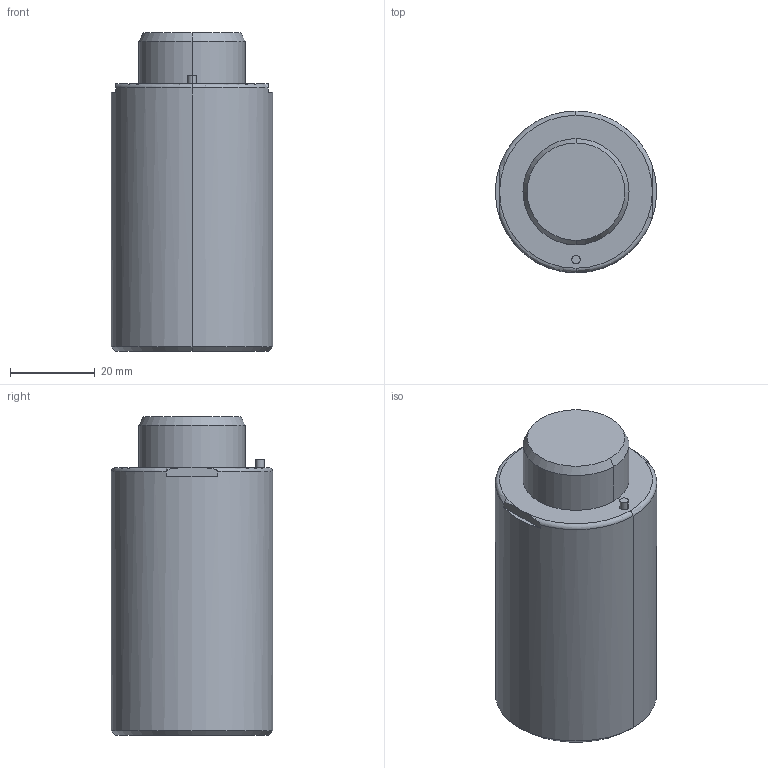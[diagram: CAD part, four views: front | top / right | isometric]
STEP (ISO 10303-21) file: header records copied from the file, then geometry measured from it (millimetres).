
FILE_DESCRIPTION(/* description */ (''),/* implementation_level */ '2;1');
FILE_NAME(/* name */ '3d_gsx38-10_03991_r00.stp',/* time_stamp */ '2011-01-10T14:15:13+09:00',/* author */ ('MISUMI'),/* organization */ (''),/* preprocessor_version */ 'ST-DEVELOPER v11',/* originating_system */ 'UGS - NX 5.0',/* authorisation */ '');
FILE_SCHEMA (('CONFIG_CONTROL_DESIGN'));
Length unit declared in the file: millimetre
Products named in the file (1): 3d_gsx38-10_03991_r00
Bounding box: 38 x 38 x 75 mm (x, y, z)
Volume: 75276.7 mm3; surface area: 11852.4 mm2
Topology: 1 solids, 1 shells, 59 faces, 128 edges, 76 vertices
Faces by surface type: cylinder 28, plane 15, cone 12, torus 4
Entity records: 1718 total; most frequent: CARTESIAN_POINT 328, DIRECTION 306, ORIENTED_EDGE 240, AXIS2_PLACEMENT_3D 130, EDGE_CURVE 120, VERTEX_POINT 76, EDGE_LOOP 72, CIRCLE 70
